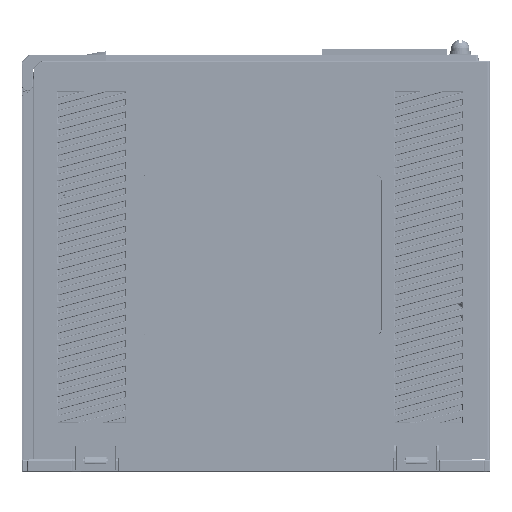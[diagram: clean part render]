
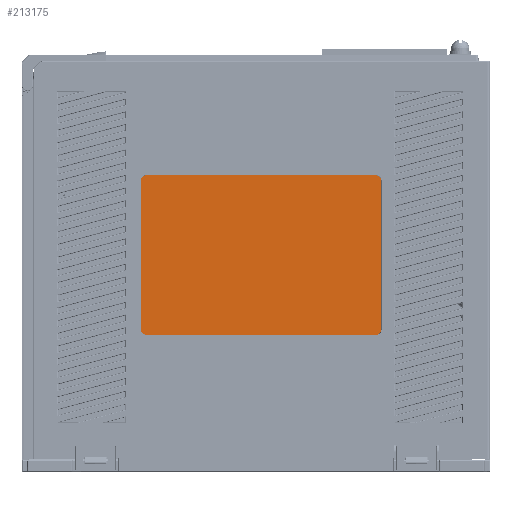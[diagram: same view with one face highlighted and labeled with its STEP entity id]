
A CAD part, left-side view. The second image highlights one B-rep face of the part: STEP entity #213175.
In plain terms, the highlighted planar face has unit normal (-1, 0, 0).
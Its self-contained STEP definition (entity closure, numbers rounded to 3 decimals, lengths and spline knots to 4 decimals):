
#59274=CARTESIAN_POINT('',(0.0197,5.1418,
-1.9227));
#59275=CARTESIAN_POINT('',(0.0197,5.1418,
-1.9));
#59276=CARTESIAN_POINT('',(0.0197,5.1419,
-1.8773));
#59277=CARTESIAN_POINT('',(0.0197,5.1417,
-1.8545));
#59279=CARTESIAN_POINT('',(0.0197,5.063,
-1.8543));
#59280=DIRECTION('',(1.,0.,0.));
#59281=DIRECTION('',(0.,1.,-0.003));
#59282=AXIS2_PLACEMENT_3D('',#59279,#59280,#59281);
#59284=CARTESIAN_POINT('',(0.0197,1.6772,
-1.8543));
#59285=DIRECTION('',(1.,0.,0.));
#59286=DIRECTION('',(0.,0.003,1.));
#59287=AXIS2_PLACEMENT_3D('',#59284,#59285,#59286);
#59289=CARTESIAN_POINT('',(0.0197,1.6772,
-4.0433));
#59290=DIRECTION('',(1.,0.,0.));
#59291=DIRECTION('',(0.,-1.,0.003));
#59292=AXIS2_PLACEMENT_3D('',#59289,#59290,#59291);
#59294=CARTESIAN_POINT('',(0.0197,5.063,
-4.0433));
#59295=DIRECTION('',(1.,0.,0.));
#59296=DIRECTION('',(0.,-0.003,-1.));
#59297=AXIS2_PLACEMENT_3D('',#59294,#59295,#59296);
#59307=DIRECTION('',(0.,1.,0.));
#59308=VECTOR('',#59307,3.3172);
#59309=CARTESIAN_POINT('',(0.0197,1.7457,
-1.7756));
#59310=LINE('',#59309,#59308);
#59311=CARTESIAN_POINT('',(0.0197,1.6774,
-1.7756));
#59312=CARTESIAN_POINT('',(0.0197,1.6849,
-1.7755));
#59313=CARTESIAN_POINT('',(0.0197,1.6999,
-1.7756));
#59314=CARTESIAN_POINT('',(0.0197,1.7227,
-1.7756));
#59315=CARTESIAN_POINT('',(0.0197,1.738,
-1.7756));
#59316=CARTESIAN_POINT('',(0.0197,1.7457,
-1.7756));
#59333=DIRECTION('',(0.,0.,1.));
#59334=VECTOR('',#59333,2.1204);
#59335=CARTESIAN_POINT('',(0.0197,1.5984,
-3.9749));
#59336=LINE('',#59335,#59334);
#59345=CARTESIAN_POINT('',(0.0197,1.5984,
-4.0431));
#59346=CARTESIAN_POINT('',(0.0197,1.5984,
-4.0356));
#59347=CARTESIAN_POINT('',(0.0197,1.5984,
-4.0206));
#59348=CARTESIAN_POINT('',(0.0197,1.5984,
-3.9978));
#59349=CARTESIAN_POINT('',(0.0197,1.5984,
-3.9826));
#59350=CARTESIAN_POINT('',(0.0197,1.5984,
-3.9749));
#59375=DIRECTION('',(0.,-1.,0.));
#59376=VECTOR('',#59375,3.3349);
#59377=CARTESIAN_POINT('',(0.0197,5.0123,
-4.122));
#59378=LINE('',#59377,#59376);
#59379=CARTESIAN_POINT('',(0.0197,5.0628,
-4.122));
#59380=CARTESIAN_POINT('',(0.0197,5.0572,
-4.1221));
#59381=CARTESIAN_POINT('',(0.0197,5.0461,
-4.122));
#59382=CARTESIAN_POINT('',(0.0197,5.0292,
-4.1221));
#59383=CARTESIAN_POINT('',(0.0197,5.0179,
-4.122));
#59384=CARTESIAN_POINT('',(0.0197,5.0123,
-4.122));
#59410=DIRECTION('',(0.,0.,-1.));
#59411=VECTOR('',#59410,2.1204);
#59412=CARTESIAN_POINT('',(0.0197,5.1418,
-1.9227));
#59413=LINE('',#59412,#59411);
#116001=CARTESIAN_POINT('',(0.0197,5.1417,
-1.8545));
#116002=VERTEX_POINT('',#116001);
#116004=VERTEX_POINT('',#59274);
#116005=CARTESIAN_POINT('',(0.0197,5.0628,
-1.7756));
#116006=VERTEX_POINT('',#116005);
#116007=CARTESIAN_POINT('',(0.0197,1.6774,
-1.7756));
#116008=CARTESIAN_POINT('',(0.0197,1.5985,
-1.8545));
#116009=VERTEX_POINT('',#116007);
#116010=VERTEX_POINT('',#116008);
#116011=CARTESIAN_POINT('',(0.0197,1.5985,
-4.0431));
#116012=CARTESIAN_POINT('',(0.0197,1.6774,
-4.122));
#116013=VERTEX_POINT('',#116011);
#116014=VERTEX_POINT('',#116012);
#116015=CARTESIAN_POINT('',(0.0197,5.0628,
-4.122));
#116016=CARTESIAN_POINT('',(0.0197,5.1417,
-4.0431));
#116017=VERTEX_POINT('',#116015);
#116018=VERTEX_POINT('',#116016);
#116021=CARTESIAN_POINT('',(0.0197,1.7457,
-1.7756));
#116022=VERTEX_POINT('',#116021);
#116023=CARTESIAN_POINT('',(0.0197,1.5984,
-3.9749));
#116024=VERTEX_POINT('',#116023);
#116029=CARTESIAN_POINT('',(0.0197,5.0123,
-4.122));
#116030=VERTEX_POINT('',#116029);
#213146=CARTESIAN_POINT('',(0.0197,3.3701,
-2.9488));
#213147=DIRECTION('',(1.,0.,0.));
#213148=DIRECTION('',(0.,-1.,0.));
#213149=AXIS2_PLACEMENT_3D('',#213146,#213147,#213148);
#213150=PLANE('',#213149);
#213151=ORIENTED_EDGE('',*,*,#213138,.T.);
#213152=ORIENTED_EDGE('',*,*,#213091,.T.);
#213154=ORIENTED_EDGE('',*,*,#213153,.F.);
#213156=ORIENTED_EDGE('',*,*,#213155,.F.);
#213158=ORIENTED_EDGE('',*,*,#213157,.T.);
#213160=ORIENTED_EDGE('',*,*,#213159,.F.);
#213162=ORIENTED_EDGE('',*,*,#213161,.F.);
#213164=ORIENTED_EDGE('',*,*,#213163,.T.);
#213166=ORIENTED_EDGE('',*,*,#213165,.F.);
#213168=ORIENTED_EDGE('',*,*,#213167,.F.);
#213170=ORIENTED_EDGE('',*,*,#213169,.T.);
#213172=ORIENTED_EDGE('',*,*,#213171,.F.);
#213173=EDGE_LOOP('',(#213151,#213152,#213154,#213156,#213158,#213160,#213162,
#213164,#213166,#213168,#213170,#213172));
#213174=FACE_OUTER_BOUND('',#213173,.F.);
#213175=ADVANCED_FACE('',(#213174),#213150,.F.);
#59278=B_SPLINE_CURVE_WITH_KNOTS('',3,(#59274,#59275,#59276,#59277),
.UNSPECIFIED.,.F.,.F.,(4,4),(0.,1.),.UNSPECIFIED.);
#59283=CIRCLE('',#59282,0.0787);
#59288=CIRCLE('',#59287,0.0787);
#59293=CIRCLE('',#59292,0.0787);
#59298=CIRCLE('',#59297,0.0787);
#59317=B_SPLINE_CURVE_WITH_KNOTS('',3,(#59311,#59312,#59313,#59314,#59315,
#59316),.UNSPECIFIED.,.F.,.F.,(4,1,1,4),(0.,0.3333,
0.6667,1.),.UNSPECIFIED.);
#59351=B_SPLINE_CURVE_WITH_KNOTS('',3,(#59345,#59346,#59347,#59348,#59349,
#59350),.UNSPECIFIED.,.F.,.F.,(4,1,1,4),(0.,0.3333,
0.6667,1.),.UNSPECIFIED.);
#59385=B_SPLINE_CURVE_WITH_KNOTS('',3,(#59379,#59380,#59381,#59382,#59383,
#59384),.UNSPECIFIED.,.F.,.F.,(4,1,1,4),(0.,0.3333,
0.6667,1.),.UNSPECIFIED.);
#213091=EDGE_CURVE('',#116002,#116006,#59283,.T.);
#213138=EDGE_CURVE('',#116004,#116002,#59278,.T.);
#213153=EDGE_CURVE('',#116022,#116006,#59310,.T.);
#213155=EDGE_CURVE('',#116009,#116022,#59317,.T.);
#213157=EDGE_CURVE('',#116009,#116010,#59288,.T.);
#213159=EDGE_CURVE('',#116024,#116010,#59336,.T.);
#213161=EDGE_CURVE('',#116013,#116024,#59351,.T.);
#213163=EDGE_CURVE('',#116013,#116014,#59293,.T.);
#213165=EDGE_CURVE('',#116030,#116014,#59378,.T.);
#213167=EDGE_CURVE('',#116017,#116030,#59385,.T.);
#213169=EDGE_CURVE('',#116017,#116018,#59298,.T.);
#213171=EDGE_CURVE('',#116004,#116018,#59413,.T.);
